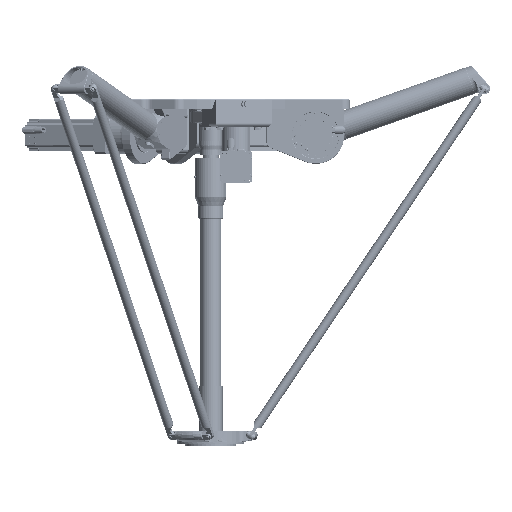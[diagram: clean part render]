
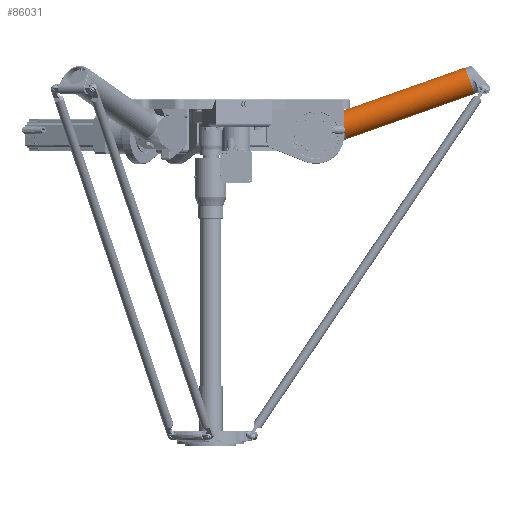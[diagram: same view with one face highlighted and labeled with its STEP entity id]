
A CAD part, front view. The second image highlights one B-rep face of the part: STEP entity #86031.
In plain terms, the highlighted cylindrical face has radius 44 mm (diameter 88 mm), a full revolution.
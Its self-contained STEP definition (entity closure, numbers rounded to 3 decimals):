
#1534 = AXIS2_PLACEMENT_3D ( 'NONE', #54364, #114463, #102041 ) ;
#5188 = AXIS2_PLACEMENT_3D ( 'NONE', #72798, #61452, #97715 ) ;
#7266 = CARTESIAN_POINT ( 'NONE',  ( 413.899, 0., -52.805 ) ) ;
#10479 = FACE_OUTER_BOUND ( 'NONE', #54164, .T. ) ;
#11309 = CARTESIAN_POINT ( 'NONE',  ( 399.218, 0., -11.326 ) ) ;
#26016 = FACE_OUTER_BOUND ( 'NONE', #51426, .T. ) ;
#27340 = CIRCLE ( 'NONE', #1534, 44. ) ;
#37060 = EDGE_CURVE ( 'NONE', #102388, #102388, #27340, .T. ) ;
#51426 = EDGE_LOOP ( 'NONE', ( #101047 ) ) ;
#53043 = CYLINDRICAL_SURFACE ( 'NONE', #5188, 44. ) ;
#54164 = EDGE_LOOP ( 'NONE', ( #60017 ) ) ;
#54364 = CARTESIAN_POINT ( 'NONE',  ( 815.125, 0., 89.206 ) ) ;
#56589 = DIRECTION ( 'NONE',  ( -0.334, 0., 0.943 ) ) ;
#57386 = AXIS2_PLACEMENT_3D ( 'NONE', #7266, #67956, #56589 ) ;
#60017 = ORIENTED_EDGE ( 'NONE', *, *, #83045, .T. ) ;
#61452 = DIRECTION ( 'NONE',  ( -0.943, 0., -0.334 ) ) ;
#66226 = CARTESIAN_POINT ( 'NONE',  ( 800.444, 0., 130.684 ) ) ;
#67956 = DIRECTION ( 'NONE',  ( 0.943, 0., 0.334 ) ) ;
#72798 = CARTESIAN_POINT ( 'NONE',  ( 614.512, 0., 18.201 ) ) ;
#83045 = EDGE_CURVE ( 'NONE', #140339, #140339, #120582, .T. ) ;
#86031 = ADVANCED_FACE ( 'NONE', ( #26016, #10479 ), #53043, .T. ) ;
#97715 = DIRECTION ( 'NONE',  ( -0.334, 0., 0.943 ) ) ;
#101047 = ORIENTED_EDGE ( 'NONE', *, *, #37060, .T. ) ;
#102041 = DIRECTION ( 'NONE',  ( -0.334, 0., 0.943 ) ) ;
#102388 = VERTEX_POINT ( 'NONE', #66226 ) ;
#114463 = DIRECTION ( 'NONE',  ( -0.943, 0., -0.334 ) ) ;
#120582 = CIRCLE ( 'NONE', #57386, 44. ) ;
#140339 = VERTEX_POINT ( 'NONE', #11309 ) ;
